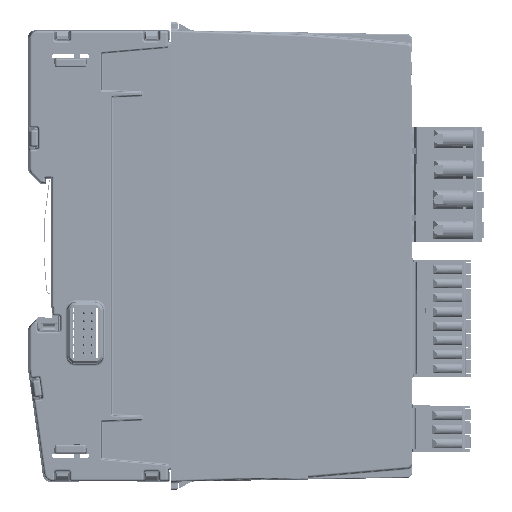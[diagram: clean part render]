
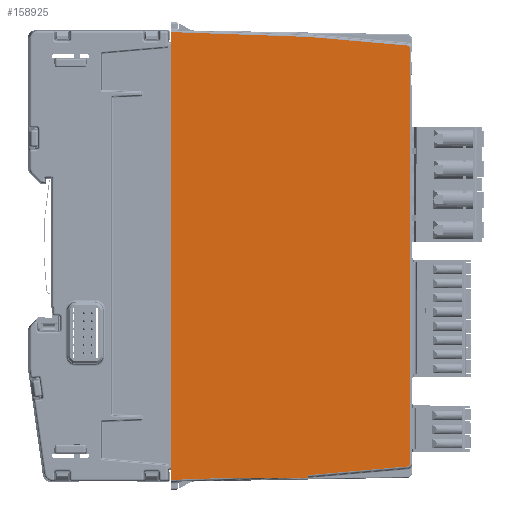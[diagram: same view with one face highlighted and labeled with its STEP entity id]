
A CAD part, left-side view. The second image highlights one B-rep face of the part: STEP entity #158925.
In plain terms, the highlighted planar face has unit normal (-1, -0.018, 0).
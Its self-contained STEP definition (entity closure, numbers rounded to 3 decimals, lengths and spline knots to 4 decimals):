
#4874=ELLIPSE('',#171060,0.0315,0.0315);
#4875=ELLIPSE('',#171061,0.0315,0.0315);
#9762=PLANE('',#171059);
#17415=FACE_OUTER_BOUND('',#26272,.T.);
#26272=EDGE_LOOP('',(#137227,#137228,#137229,#137230,#137231,#137232,#137233,
#137234,#137235,#137236,#137237,#137238,#137239));
#45605=LINE('',#269982,#61544);
#45618=LINE('',#270054,#61557);
#45675=LINE('',#270282,#61614);
#45987=LINE('',#272072,#61926);
#45988=LINE('',#272074,#61927);
#45989=LINE('',#272078,#61928);
#45990=LINE('',#272082,#61929);
#45991=LINE('',#272084,#61930);
#45992=LINE('',#272086,#61931);
#45993=LINE('',#272088,#61932);
#45994=LINE('',#272089,#61933);
#61544=VECTOR('',#207670,0.3937);
#61557=VECTOR('',#207711,0.3937);
#61614=VECTOR('',#207906,39.3701);
#61926=VECTOR('',#208596,39.3701);
#61927=VECTOR('',#208597,39.3701);
#61928=VECTOR('',#208600,39.3701);
#61929=VECTOR('',#208603,39.3701);
#61930=VECTOR('',#208604,39.3701);
#61931=VECTOR('',#208605,39.3701);
#61932=VECTOR('',#208606,39.3701);
#61933=VECTOR('',#208607,39.3701);
#75657=VERTEX_POINT('',#269978);
#75659=VERTEX_POINT('',#269981);
#75681=VERTEX_POINT('',#270049);
#75739=VERTEX_POINT('',#270281);
#76096=VERTEX_POINT('',#272071);
#76097=VERTEX_POINT('',#272073);
#76098=VERTEX_POINT('',#272075);
#76099=VERTEX_POINT('',#272077);
#76100=VERTEX_POINT('',#272079);
#76101=VERTEX_POINT('',#272081);
#76102=VERTEX_POINT('',#272083);
#76103=VERTEX_POINT('',#272085);
#76104=VERTEX_POINT('',#272087);
#96126=EDGE_CURVE('',#75657,#75659,#45605,.T.);
#96153=EDGE_CURVE('',#75659,#75681,#45618,.T.);
#96246=EDGE_CURVE('',#75739,#75681,#45675,.T.);
#96758=EDGE_CURVE('',#75657,#76096,#45987,.T.);
#96759=EDGE_CURVE('',#76096,#76097,#45988,.T.);
#96760=EDGE_CURVE('',#76097,#76098,#4874,.T.);
#96761=EDGE_CURVE('',#76098,#76099,#45989,.T.);
#96762=EDGE_CURVE('',#76099,#76100,#4875,.T.);
#96763=EDGE_CURVE('',#76100,#76101,#45990,.T.);
#96764=EDGE_CURVE('',#76101,#76102,#45991,.T.);
#96765=EDGE_CURVE('',#76102,#76103,#45992,.T.);
#96766=EDGE_CURVE('',#76104,#76103,#45993,.T.);
#96767=EDGE_CURVE('',#76104,#75739,#45994,.T.);
#137227=ORIENTED_EDGE('',*,*,#96758,.T.);
#137228=ORIENTED_EDGE('',*,*,#96759,.T.);
#137229=ORIENTED_EDGE('',*,*,#96760,.T.);
#137230=ORIENTED_EDGE('',*,*,#96761,.T.);
#137231=ORIENTED_EDGE('',*,*,#96762,.T.);
#137232=ORIENTED_EDGE('',*,*,#96763,.T.);
#137233=ORIENTED_EDGE('',*,*,#96764,.T.);
#137234=ORIENTED_EDGE('',*,*,#96765,.T.);
#137235=ORIENTED_EDGE('',*,*,#96766,.F.);
#137236=ORIENTED_EDGE('',*,*,#96767,.T.);
#137237=ORIENTED_EDGE('',*,*,#96246,.T.);
#137238=ORIENTED_EDGE('',*,*,#96153,.F.);
#137239=ORIENTED_EDGE('',*,*,#96126,.F.);
#158925=ADVANCED_FACE('',(#17415),#9762,.T.);
#171059=AXIS2_PLACEMENT_3D('',#272070,#208594,#208595);
#171060=AXIS2_PLACEMENT_3D('',#272076,#208598,#208599);
#171061=AXIS2_PLACEMENT_3D('',#272080,#208601,#208602);
#207670=DIRECTION('',(0.,0.,-1.));
#207711=DIRECTION('',(-0.017,1.,0.));
#207906=DIRECTION('',(0.017,-0.999,0.035));
#208594=DIRECTION('center_axis',(-1.,-0.017,
0.));
#208595=DIRECTION('ref_axis',(-0.017,1.,0.));
#208596=DIRECTION('',(0.017,-0.999,0.035));
#208597=DIRECTION('',(0.017,-0.996,0.087));
#208598=DIRECTION('center_axis',(-1.,-0.017,
0.));
#208599=DIRECTION('ref_axis',(0.017,-1.,0.));
#208600=DIRECTION('',(0.,0.,1.));
#208601=DIRECTION('center_axis',(-1.,-0.017,
0.));
#208602=DIRECTION('ref_axis',(0.017,-1.,0.));
#208603=DIRECTION('',(-0.017,0.996,0.087));
#208604=DIRECTION('',(-0.017,0.999,0.035));
#208605=DIRECTION('',(0.,0.,-1.));
#208606=DIRECTION('',(0.,0.,1.));
#208607=DIRECTION('',(0.,0.,-1.));
#269978=CARTESIAN_POINT('',(0.0005,-2.2096,-4.1958));
#269981=CARTESIAN_POINT('',(0.0005,-2.2096,-4.2206));
#269982=CARTESIAN_POINT('',(0.0005,-2.2096,-3.155));
#270049=CARTESIAN_POINT('',(-0.0119,-1.4997,-4.2206));
#270054=CARTESIAN_POINT('',(-0.0131,-1.4351,-4.2206));
#270281=CARTESIAN_POINT('',(-0.0227,-0.8827,-4.2421));
#270282=CARTESIAN_POINT('',(-0.0282,-0.5654,-4.2532));
#272070=CARTESIAN_POINT('Origin',(-0.0296,-0.489,
-2.0669));
#272071=CARTESIAN_POINT('',(0.0007,-2.2205,-4.1954));
#272072=CARTESIAN_POINT('',(-0.0282,-0.5654,-4.2532));
#272073=CARTESIAN_POINT('',(0.0174,-3.1772,-4.1117));
#272074=CARTESIAN_POINT('',(-0.0261,-0.6869,-4.3296));
#272075=CARTESIAN_POINT('',(0.0179,-3.2059,-4.0803));
#272076=CARTESIAN_POINT('Origin',(0.0173,-3.1744,
-4.0803));
#272077=CARTESIAN_POINT('',(0.0179,-3.2059,-0.0535));
#272078=CARTESIAN_POINT('',(0.0179,-3.2059,-0.0535));
#272079=CARTESIAN_POINT('',(0.0174,-3.1772,-0.0221));
#272080=CARTESIAN_POINT('Origin',(0.0173,-3.1744,
-0.0535));
#272081=CARTESIAN_POINT('',(0.0007,-2.2205,0.0616));
#272082=CARTESIAN_POINT('',(-0.0261,-0.6869,0.1957));
#272083=CARTESIAN_POINT('',(-0.0227,-0.8827,0.1083));
#272084=CARTESIAN_POINT('',(-0.0282,-0.5654,0.1194));
#272085=CARTESIAN_POINT('',(-0.0227,-0.8827,-0.0312));
#272086=CARTESIAN_POINT('',(-0.0227,-0.8827,0.128));
#272087=CARTESIAN_POINT('',(-0.0227,-0.8827,-4.1027));
#272088=CARTESIAN_POINT('',(-0.0227,-0.8827,-7.5932));
#272089=CARTESIAN_POINT('',(-0.0227,-0.8827,0.128));
